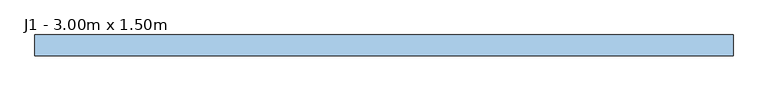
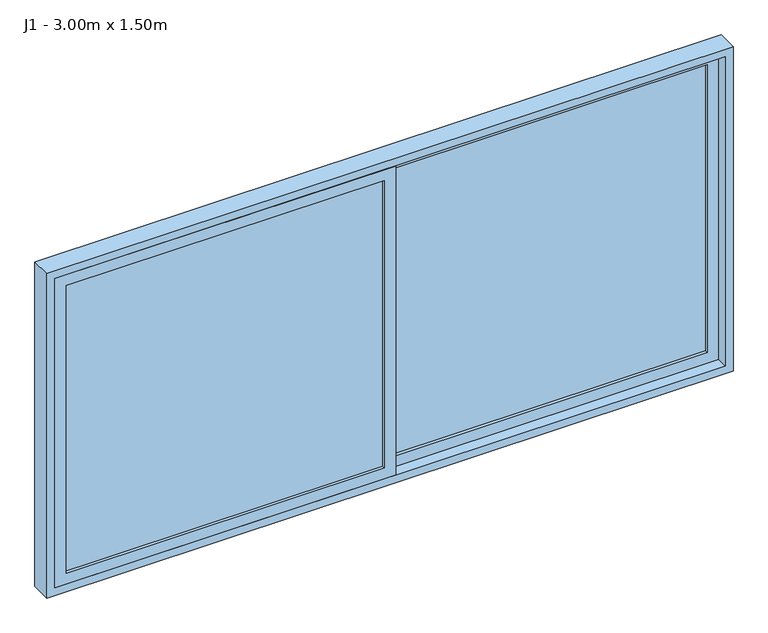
"""IFC4 building model written with IfcOpenShell, lengths in millimetres: window geometry, Janela de correr - 2 Painéis : J1 - 3.00m x 1.50m."""

from ifc_helpers import new_model, si_unit, frame, origin, place, context, project, spatial, polyline, outline, extrude, source, transform, mapped, element, save


def j1_3_00m_x_1_50m_afc201fb(model_context):
    return source(origin(), model_context, "Body", "SweptSolid", [
        extrude(outline(polyline([(685.0, -25.0), (685.0, 1465.0), (2115.0, 1465.0), (2115.0, -25.0), (685.0, -25.0)]), holes=[polyline([(2065.0, 25.0), (2065.0, 1415.0), (735.0, 1415.0), (735.0, 25.0), (2065.0, 25.0)])]), frame((0.0, -25.0, 0.0), z_axis=(0.0, 1.0, 0.0), x_axis=(0.0, 0.0, 1.0)), (0.0, 0.0, 1.0), 40.0),
        extrude(outline(polyline([(2115.0, 25.0), (2115.0, -1465.0), (685.0, -1465.0), (685.0, 25.0), (2115.0, 25.0)]), holes=[polyline([(735.0, -25.0), (735.0, -1415.0), (2065.0, -1415.0), (2065.0, -25.0), (735.0, -25.0)])]), frame((0.0, -75.0, 0.0), z_axis=(0.0, 1.0, 0.0), x_axis=(0.0, 0.0, 1.0)), (0.0, 0.0, 1.0), 40.0),
        extrude(outline(polyline([(2150.0, 1500.0), (2150.0, -1500.0), (650.0, -1500.0), (650.0, 1500.0), (2150.0, 1500.0)]), holes=[polyline([(685.0, 1465.0), (685.0, -1465.0), (2115.0, -1465.0), (2115.0, 1465.0), (685.0, 1465.0)])]), frame((0.0, -75.0, 0.0), z_axis=(0.0, 1.0, 0.0), x_axis=(0.0, 0.0, 1.0)), (0.0, 0.0, 1.0), 90.0),
        extrude(outline(polyline([(25.0, 2.0), (1415.0, 2.0), (1415.0, -12.0), (25.0, -12.0), (25.0, 2.0)])), frame((0.0, 0.0, 735.0), z_axis=(0.0, 0.0, 1.0), x_axis=(1.0, 0.0, 0.0)), (0.0, 0.0, 1.0), 1330.0),
        extrude(outline(polyline([(-1415.0, -48.0), (-25.0, -48.0), (-25.0, -62.0), (-1415.0, -62.0), (-1415.0, -48.0)])), frame((0.0, 0.0, 735.0), z_axis=(0.0, 0.0, 1.0), x_axis=(1.0, 0.0, 0.0)), (0.0, 0.0, 1.0), 1330.0),
    ])


if __name__ == "__main__":
    model = new_model("IFC4")
    model_context = context("Model", 3, world=origin())
    ifc_project = project(units=[si_unit("LENGTHUNIT", "METRE", prefix="MILLI")], contexts=[model_context])
    site = spatial("IfcSite", under=ifc_project)
    building = spatial("IfcBuilding", under=site)
    placement = place(None, origin())
    j1_3_00m_x_1_50m_shape = j1_3_00m_x_1_50m_afc201fb(model_context)
    element("IfcWindow", 1, ObjectType="Janela de correr - 2 Painéis : J1 - 3.00m x 1.50m", at=placement, inside=building, context=model_context, shape_type="MappedRepresentation", body=[
        mapped(j1_3_00m_x_1_50m_shape, transform((0.0, 0.0, 0.0), x_axis=(1.0, 0.0, 0.0), y_axis=(0.0, 1.0, 0.0), z_axis=(0.0, 0.0, 1.0))),
    ])
    save(model, "model.ifc")
